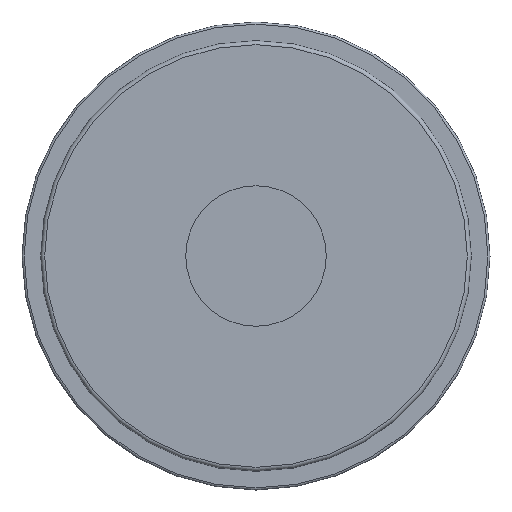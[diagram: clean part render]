
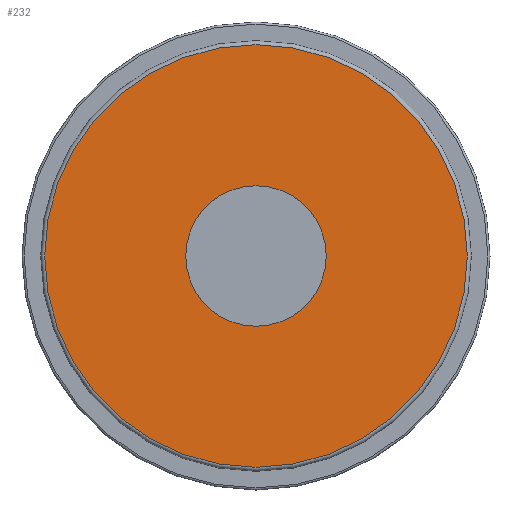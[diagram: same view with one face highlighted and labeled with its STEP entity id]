
A CAD part, left-side view. The second image highlights one B-rep face of the part: STEP entity #232.
In plain terms, the highlighted planar face has unit normal (-1, 0, 0).
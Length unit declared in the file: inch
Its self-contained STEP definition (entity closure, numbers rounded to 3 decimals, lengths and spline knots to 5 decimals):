
#46=FACE_BOUND('',#75,.T.);
#52=PLANE('',#281);
#62=FACE_OUTER_BOUND('',#74,.T.);
#74=EDGE_LOOP('',(#193,#194));
#75=EDGE_LOOP('',(#195));
#89=CIRCLE('',#258,0.525);
#103=CIRCLE('',#277,1.58);
#104=CIRCLE('',#278,1.58);
#111=VERTEX_POINT('',#404);
#124=VERTEX_POINT('',#437);
#125=VERTEX_POINT('',#439);
#132=EDGE_CURVE('',#111,#111,#89,.T.);
#147=EDGE_CURVE('',#124,#125,#103,.T.);
#148=EDGE_CURVE('',#125,#124,#104,.T.);
#193=ORIENTED_EDGE('',*,*,#148,.F.);
#194=ORIENTED_EDGE('',*,*,#147,.F.);
#195=ORIENTED_EDGE('',*,*,#132,.T.);
#232=ADVANCED_FACE('',(#62,#46),#52,.T.);
#258=AXIS2_PLACEMENT_3D('',#406,#309,#310);
#277=AXIS2_PLACEMENT_3D('',#440,#348,#349);
#278=AXIS2_PLACEMENT_3D('',#441,#350,#351);
#281=AXIS2_PLACEMENT_3D('',#445,#357,#358);
#309=DIRECTION('center_axis',(1.,0.,0.));
#310=DIRECTION('ref_axis',(0.,0.,-1.));
#348=DIRECTION('center_axis',(1.,0.,0.));
#349=DIRECTION('ref_axis',(0.,-1.,0.));
#350=DIRECTION('center_axis',(1.,0.,0.));
#351=DIRECTION('ref_axis',(0.,-1.,0.));
#357=DIRECTION('center_axis',(-1.,0.,0.));
#358=DIRECTION('ref_axis',(0.,0.,1.));
#404=CARTESIAN_POINT('',(0.,0.,0.525));
#406=CARTESIAN_POINT('Origin',(0.,0.,0.));
#437=CARTESIAN_POINT('',(0.,0.,1.58));
#439=CARTESIAN_POINT('',(0.,1.58,0.));
#440=CARTESIAN_POINT('Origin',(0.,0.,0.));
#441=CARTESIAN_POINT('Origin',(0.,0.,0.));
#445=CARTESIAN_POINT('Origin',(0.,1.61,0.));
